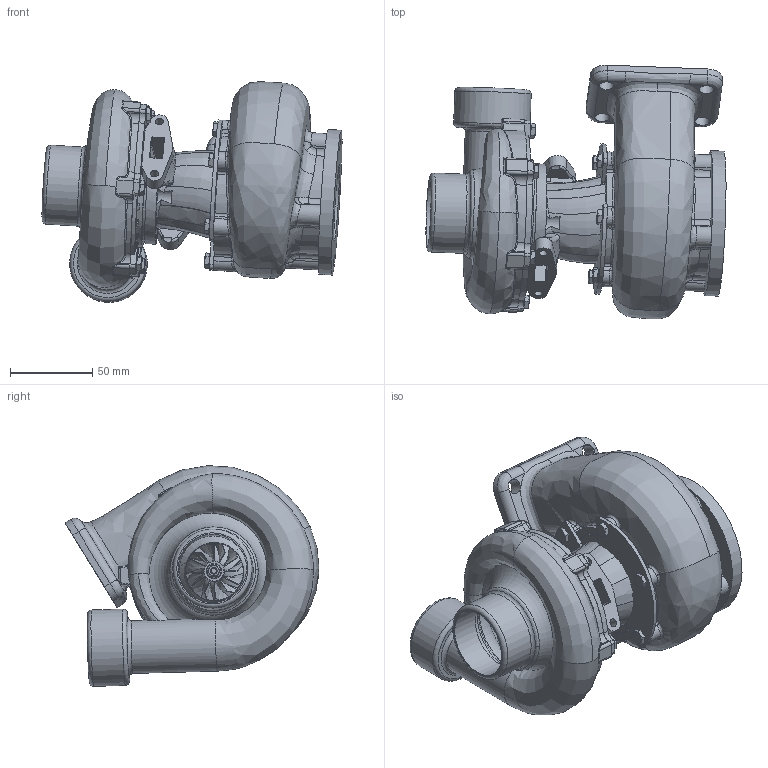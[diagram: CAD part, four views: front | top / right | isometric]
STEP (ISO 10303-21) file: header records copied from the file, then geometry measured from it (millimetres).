
FILE_DESCRIPTION(/* description */ (''),/* implementation_level */ '2;1');
FILE_NAME(/* name */ 'C:/Users/user/Downloads/CAD/engines/New folder (2)/turbocharger.step',/* time_stamp */ '2017-09-30T00:10:44+06:00',/* author */ ('dewanjan.c@gmail.com'),/* organization */ (''),/* preprocessor_version */ 'ST-DEVELOPER v16.13',/* originating_system */ 'Autodesk Translation Framework v6.5.0.72',/* authorisation */ '');
FILE_SCHEMA (('AUTOMOTIVE_DESIGN { 1 0 10303 214 3 1 1 }'));
Length unit declared in the file: millimetre
Products named in the file (4): turbocharger v2; Body; Part; Turbocharger
Assembly tree (3 placements, depth 4):
  turbocharger v2
    Body
      Part
        Turbocharger
Bounding box: 181.93 x 153.81 x 133.82 mm (x, y, z)
Volume: 373886.1 mm3; surface area: 250243.6 mm2
Topology: 26 solids, 27 shells, 1529 faces, 4159 edges, 2734 vertices
Faces by surface type: bspline 528, cylinder 440, plane 431, torus 77, cone 38, sphere 15
Full cylindrical faces by diameter (mm): 3.307 x2, 4 x4, 4.24 x1, 4.8 x46, 6.4 x8, 6.96 x12, 8 x6, 8.8 x4, 11.973 x1, 12 x4, 12.8 x1, 24 x1, 32 x1, 35.2 x1, 36.8 x1, 40 x1, 40.017 x1, 41.6 x1, 46.4 x2, 46.417 x1, 48 x2, 48.32 x1, 51.2 x1, 59.2 x1, 62.4 x1, 63.2 x1, 64 x1, 68.8 x1, 88 x2, 90.4 x2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
Entity records: 127303 total; most frequent: CARTESIAN_POINT 91991, ORIENTED_EDGE 8282, DIRECTION 6003, EDGE_CURVE 4143, VERTEX_POINT 2733, AXIS2_PLACEMENT_3D 2431, EDGE_LOOP 1674, FACE_OUTER_BOUND 1529
